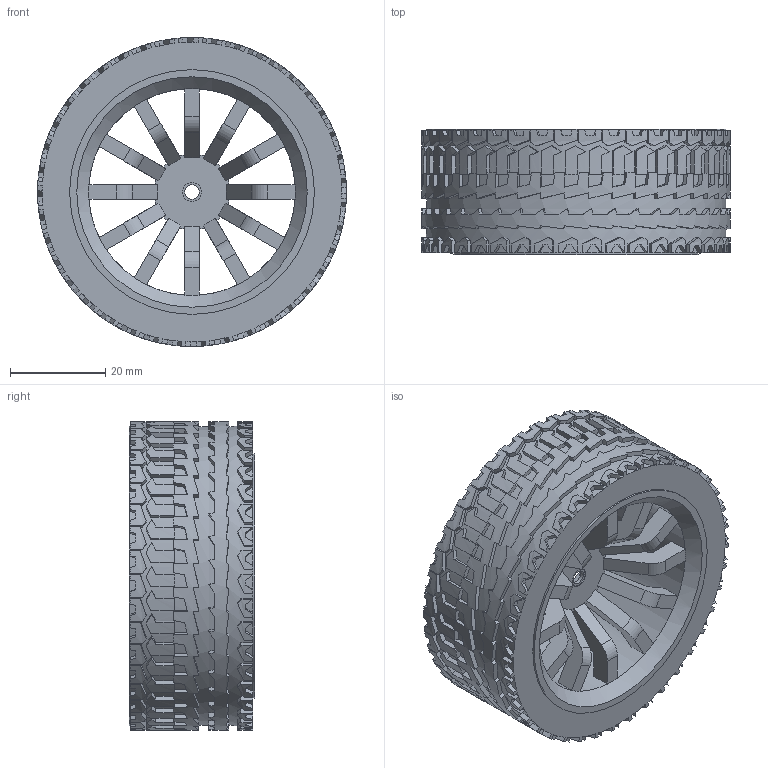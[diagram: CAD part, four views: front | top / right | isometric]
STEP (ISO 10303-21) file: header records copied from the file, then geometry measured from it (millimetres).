
FILE_DESCRIPTION(/* description */ (''),/* implementation_level */ '2;1');
FILE_NAME(/* name */ 'Wheel.stp',/* time_stamp */ '2025-10-30T12:57:10+07:00',/* author */ ('quang'),/* organization */ (''),/* preprocessor_version */ 'ST-DEVELOPER v20',/* originating_system */ 'Autodesk Inventor 2024',/* authorisation */ '');
FILE_SCHEMA (('AUTOMOTIVE_DESIGN { 1 0 10303 214 3 1 1 }'));
Length unit declared in the file: millimetre
Products named in the file (1): Wheel
Bounding box: 65 x 26.4 x 65 mm (x, y, z)
Volume: 47543.2 mm3; surface area: 18581.6 mm2
Topology: 1 solids, 1 shells, 1615 faces, 4554 edges, 3001 vertices
Faces by surface type: bspline 760, plane 670, cylinder 183, cone 2
Full cylindrical faces by diameter (mm): 3 x1, 4 x1, 16 x1, 43.5 x1, 51.5 x2, 63 x3, 65 x2
Entity records: 64496 total; most frequent: CARTESIAN_POINT 25964, ORIENTED_EDGE 9108, DIRECTION 5277, EDGE_CURVE 4554, VERTEX_POINT 3001, LINE 2161, VECTOR 2161, EDGE_LOOP 1701
